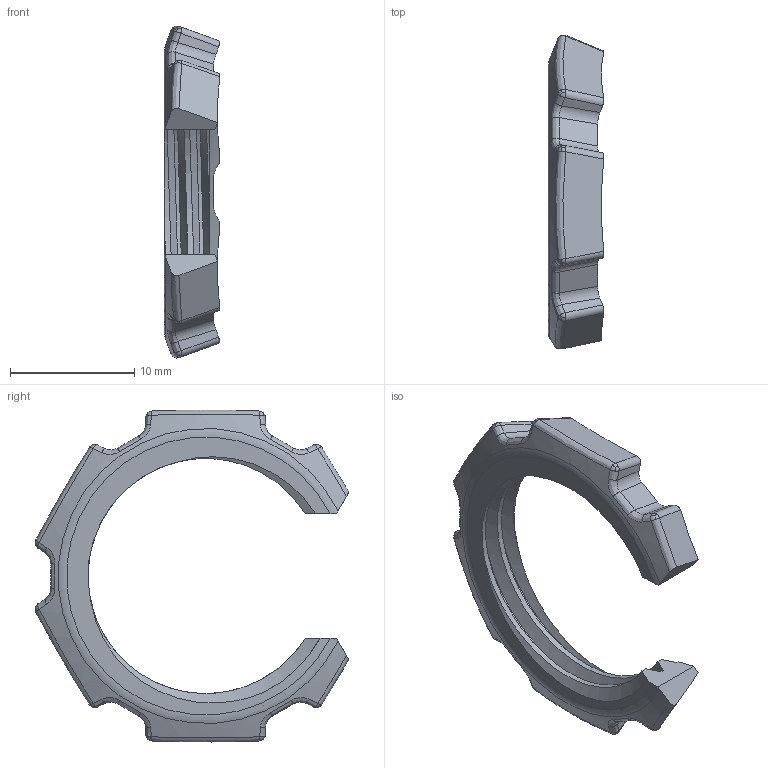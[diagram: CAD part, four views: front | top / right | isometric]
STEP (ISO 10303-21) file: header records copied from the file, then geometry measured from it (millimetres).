
FILE_DESCRIPTION(('Creo Elements/Direct Modeling STEP Export'),'2;1');
FILE_NAME('H12-0004-CL906_LN-CTG16MC.stp','2015-04-14T13:34:40',(''),(''),'PTC Creo Elements/Direct Modeling STEP processor for AP214 (Solid Model)','PTC Creo Elements/Direct Modeling 19.0A 04-Oct-2014 (C) Parametric Technology GmbH','');
FILE_SCHEMA(('AUTOMOTIVE_DESIGN { 1 0 10303 214 1 1 1 1 }'));
Length unit declared in the file: millimetre
Products named in the file (2): LN-CTG16MC
Assembly tree (1 placements, depth 2):
  LN-CTG16MC
    LN-CTG16MC
Bounding box: 4.47 x 25.25 x 26.72 mm (x, y, z)
Volume: 670 mm3; surface area: 986.4 mm2
Topology: 1 solids, 1 shells, 123 faces, 312 edges, 191 vertices
Faces by surface type: bspline 67, plane 27, cylinder 26, cone 2, torus 1
Entity records: 10963 total; most frequent: CARTESIAN_POINT 8757, ORIENTED_EDGE 624, EDGE_CURVE 312, VERTEX_POINT 191, DIRECTION 177, B_SPLINE_CURVE_WITH_KNOTS 166, EDGE_LOOP 123, FACE_OUTER_BOUND 123
